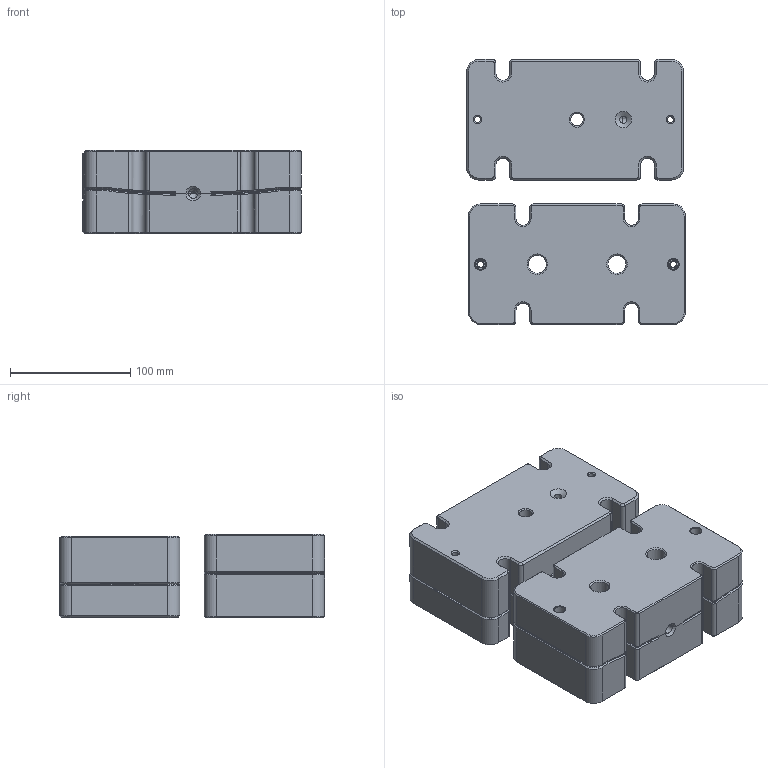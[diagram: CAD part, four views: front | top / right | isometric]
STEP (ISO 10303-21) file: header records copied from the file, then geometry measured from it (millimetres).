
FILE_DESCRIPTION(/* description */ (''),/* implementation_level */ '2;1');
FILE_NAME(/* name */ 'Nouns Publication v2.step',/* time_stamp */ '2023-11-21T11:03:17+01:00',/* author */ (''),/* organization */ (''),/* preprocessor_version */ 'ST-DEVELOPER v20',/* originating_system */ 'Autodesk Translation Framework v12.14.0.127',/* authorisation */ '');
FILE_SCHEMA (('AUTOMOTIVE_DESIGN { 1 0 10303 214 3 1 1 }'));
Products named in the file (5): Nouns Publication; Top-Frame; Bottom-Frame; Top-Temples v1; Bottom-Temples v1
Assembly tree (4 placements, depth 2):
  Nouns Publication
    Top-Frame
    Bottom-Frame
    Top-Temples v1
    Bottom-Temples v1
Bounding box: 181.5 x 220 x 69.35 mm (x, y, z)
Volume: 2252864.1 mm3; surface area: 243614.7 mm2
Topology: 4 solids, 4 shells, 5072 faces, 14075 edges, 9119 vertices
Faces by surface type: bspline 3896, plane 741, cylinder 295, cone 125, sphere 14, torus 1
Full cylindrical faces by diameter (mm): 1.319 x2, 1.339 x2, 2.5 x1, 5 x2, 5.035 x2, 8 x6, 9 x2, 10.5 x2, 12 x4, 15 x4
Entity records: 276404 total; most frequent: CARTESIAN_POINT 174393, ORIENTED_EDGE 28134, EDGE_CURVE 14067, DIRECTION 9289, VERTEX_POINT 9119, B_SPLINE_CURVE_WITH_KNOTS 8253, EDGE_LOOP 5222, FACE_OUTER_BOUND 5072
